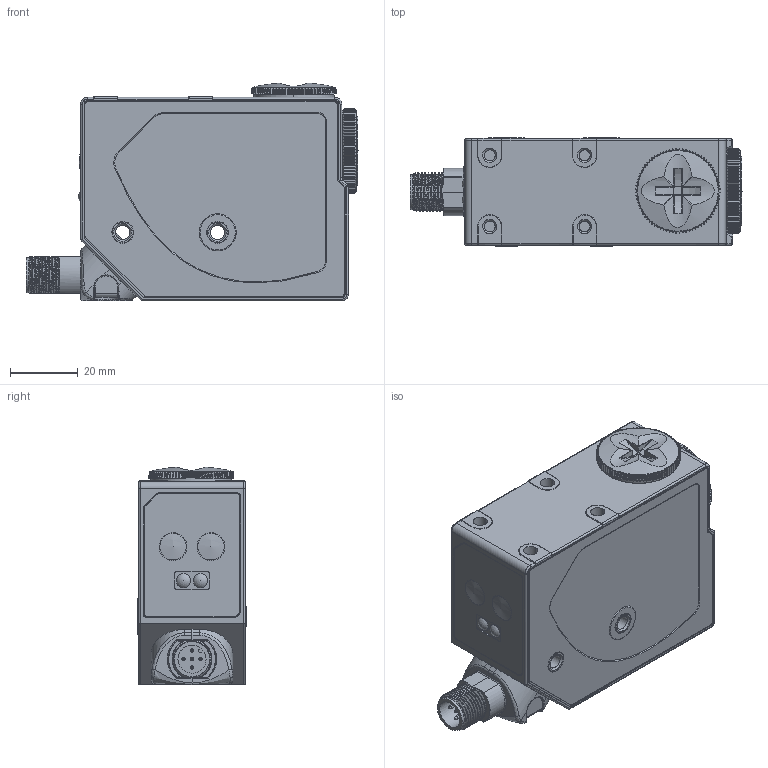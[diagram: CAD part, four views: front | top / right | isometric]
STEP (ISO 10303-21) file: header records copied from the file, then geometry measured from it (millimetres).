
FILE_DESCRIPTION(/* description */ (''),/* implementation_level */ '2;1');
FILE_NAME(/* name */ 'AP005227_01.stp',/* time_stamp */ '2013-02-25T16:41:01+01:00',/* author */ (''),/* organization */ (''),/* preprocessor_version */ 'ST-DEVELOPER v11',/* originating_system */ 'SIEMENS PLM Software NX 7.5',/* authorisation */ '');
FILE_SCHEMA (('AP203_CONFIGURATION_CONTROLLED_3D_DESIGN_OF_MECHANICAL_PARTS_AND_ASSEMBLIES_MIM_LF'));
Products named in the file (1): AP005227_01
Bounding box: 97.91 x 31.9 x 64.21 mm (x, y, z)
Volume: 147733.5 mm3; surface area: 21904.7 mm2
Topology: 1 solids, 1 shells, 1780 faces, 4574 edges, 2834 vertices
Faces by surface type: bspline 551, plane 510, cylinder 503, torus 104, cone 103, sphere 9
Full cylindrical faces by diameter (mm): 1 x5, 4.2 x2, 8.3 x1, 10.4 x1, 11 x1, 20 x1, 23.8 x1, 24 x2
Entity records: 90357 total; most frequent: CARTESIAN_POINT 57734, ORIENTED_EDGE 9016, EDGE_CURVE 4508, B_SPLINE_CURVE_WITH_KNOTS 3475, DIRECTION 3291, VERTEX_POINT 2815, EDGE_LOOP 1869, ADVANCED_FACE 1780
